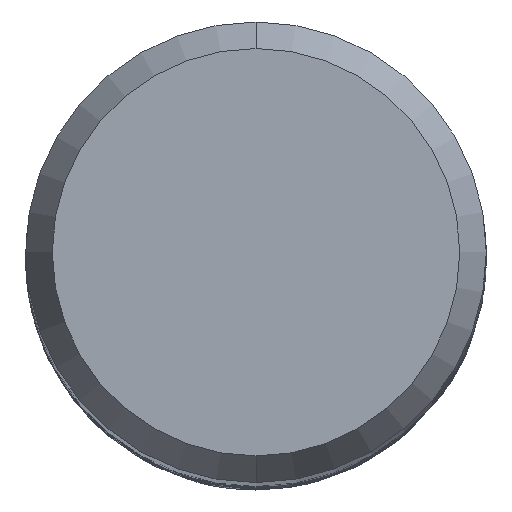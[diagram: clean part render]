
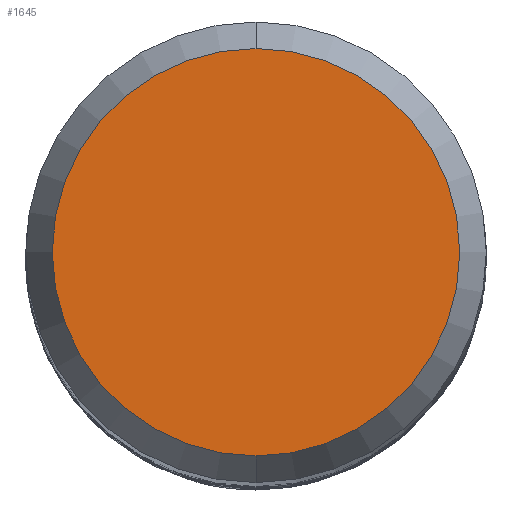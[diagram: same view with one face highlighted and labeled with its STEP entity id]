
A CAD part, top view. The second image highlights one B-rep face of the part: STEP entity #1645.
In plain terms, the highlighted planar face has unit normal (0, 0, 1).
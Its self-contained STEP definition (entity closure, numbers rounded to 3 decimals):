
#1271=EDGE_CURVE('',#1721,#1985,#3002,.T.);
#1645=ADVANCED_FACE('',(#3413),#3414,.T.);
#1721=VERTEX_POINT('',#3494);
#1807=EDGE_CURVE('',#1985,#1721,#3589,.T.);
#1985=VERTEX_POINT('',#3783);
#3002=CIRCLE('',#7739,3.538);
#3413=FACE_OUTER_BOUND('',#10879,.T.);
#3414=PLANE('',#10880);
#3494=CARTESIAN_POINT('',(0.,-3.538,0.0));
#3589=CIRCLE('',#13056,3.538);
#3783=CARTESIAN_POINT('',(0.0,3.538,0.0));
#7739=AXIS2_PLACEMENT_3D('',#18755,#18756,#18757);
#10879=EDGE_LOOP('',(#19210,#19211));
#10880=AXIS2_PLACEMENT_3D('',#19212,#19213,#19214);
#13056=AXIS2_PLACEMENT_3D('',#19378,#19379,#19380);
#18755=CARTESIAN_POINT('',(0.0,0.0,0.0));
#18756=DIRECTION('',(0.0,0.0,-1.0));
#18757=DIRECTION('',(0.0,1.0,0.0));
#19210=ORIENTED_EDGE('',*,*,#1807,.F.);
#19211=ORIENTED_EDGE('',*,*,#1271,.F.);
#19212=CARTESIAN_POINT('',(0.0,1.769,0.0));
#19213=DIRECTION('',(-0.0,0.0,1.0));
#19214=DIRECTION('',(0.0,-1.0,0.0));
#19378=CARTESIAN_POINT('',(0.0,0.0,0.0));
#19379=DIRECTION('',(0.0,0.0,-1.0));
#19380=DIRECTION('',(0.0,1.0,0.0));
